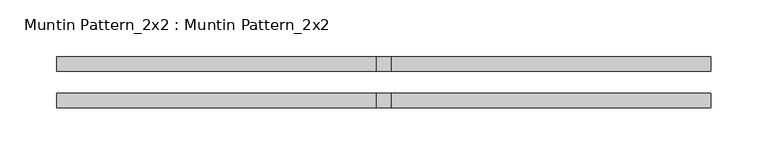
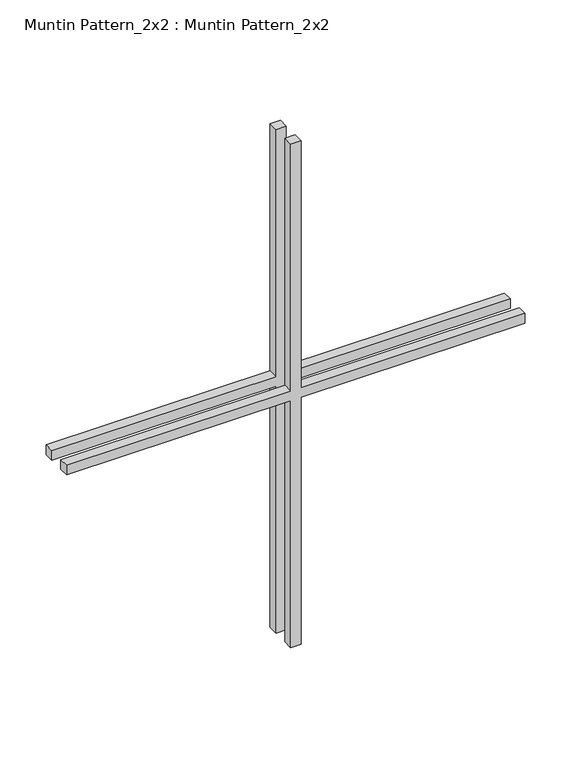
"""IFC4 building model written with IfcOpenShell, lengths in millimetres: proxy geometry, Muntin Pattern_2x2 : Muntin Pattern_2x2."""

from ifc_helpers import new_model, si_unit, frame, origin, place, context, project, spatial, polyline, outline, extrude, source, transform, mapped, element, save


def muntin_pattern_2x2_muntin_pattern_2x2_f87b2176(model_context):
    return source(origin(), model_context, "Body", "SweptSolid", [
        extrude(outline(polyline([(339.725, -6.35), (339.725, -287.3375), (327.025, -287.3375), (327.025, -6.35), (0.0, -6.35), (0.0, 6.35), (327.025, 6.35), (327.025, 287.3375), (339.725, 287.3375), (339.725, 6.35), (666.75, 6.35), (666.75, -6.35), (339.725, -6.35)])), frame((0.0, 9.525, 0.0), z_axis=(0.0, 1.0, 0.0), x_axis=(0.0, 0.0, 1.0)), (0.0, 0.0, 1.0), 12.7),
        extrude(outline(polyline([(339.725, -6.35), (339.725, -287.3375), (327.025, -287.3375), (327.025, -6.35), (0.0, -6.35), (0.0, 6.35), (327.025, 6.35), (327.025, 287.3375), (339.725, 287.3375), (339.725, 6.35), (666.75, 6.35), (666.75, -6.35), (339.725, -6.35)])), frame((0.0, -22.225, 0.0), z_axis=(0.0, 1.0, 0.0), x_axis=(0.0, 0.0, 1.0)), (0.0, 0.0, 1.0), 12.7),
    ])


if __name__ == "__main__":
    model = new_model("IFC4")
    model_context = context("Model", 3, world=origin())
    ifc_project = project(units=[si_unit("LENGTHUNIT", "METRE", prefix="MILLI")], contexts=[model_context])
    site = spatial("IfcSite", under=ifc_project)
    building = spatial("IfcBuilding", under=site)
    placement = place(None, origin())
    muntin_pattern_2x2_muntin_pattern_2x2_shape = muntin_pattern_2x2_muntin_pattern_2x2_f87b2176(model_context)
    element("IfcBuildingElementProxy", 1, Name="Muntin Pattern_2x2 : Muntin Pattern_2x2", ObjectType="Muntin Pattern_2x2 : Muntin Pattern_2x2", at=placement, inside=building, context=model_context, shape_type="MappedRepresentation", body=[
        mapped(muntin_pattern_2x2_muntin_pattern_2x2_shape, transform((0.0, 0.0, 0.0), x_axis=(1.0, 0.0, 0.0), y_axis=(0.0, 1.0, 0.0), z_axis=(0.0, 0.0, 1.0))),
    ])
    save(model, "model.ifc")
